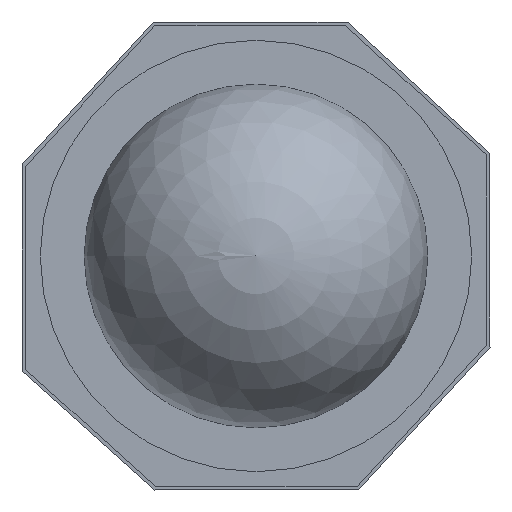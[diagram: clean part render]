
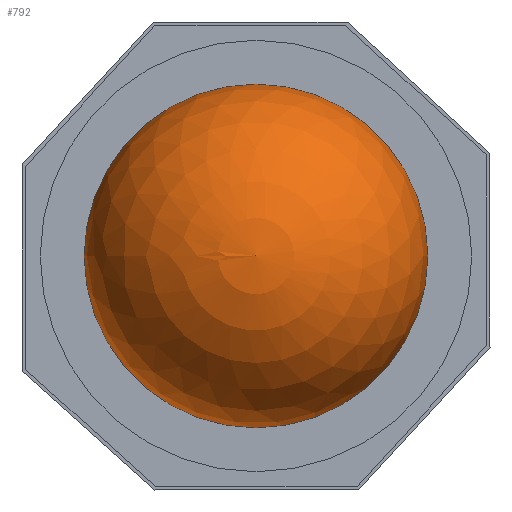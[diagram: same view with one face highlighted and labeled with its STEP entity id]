
A CAD part, left-side view. The second image highlights one B-rep face of the part: STEP entity #792.
In plain terms, the highlighted spherical face has radius 5.969 mm.
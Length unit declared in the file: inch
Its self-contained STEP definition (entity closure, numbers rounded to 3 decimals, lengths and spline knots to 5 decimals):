
#15=SPHERICAL_SURFACE('',#878,0.235);
#103=FACE_OUTER_BOUND('',#157,.T.);
#157=EDGE_LOOP('',(#730,#731,#732,#733,#734));
#342=CIRCLE('',#879,0.235);
#343=CIRCLE('',#880,0.235);
#344=CIRCLE('',#881,0.235);
#345=CIRCLE('',#882,0.235);
#417=VERTEX_POINT('',#1367);
#418=VERTEX_POINT('',#1368);
#419=VERTEX_POINT('',#1370);
#420=VERTEX_POINT('',#1373);
#523=EDGE_CURVE('',#417,#418,#342,.T.);
#524=EDGE_CURVE('',#419,#417,#343,.T.);
#525=EDGE_CURVE('',#418,#419,#344,.T.);
#526=EDGE_CURVE('',#418,#420,#345,.T.);
#730=ORIENTED_EDGE('',*,*,#523,.F.);
#731=ORIENTED_EDGE('',*,*,#524,.F.);
#732=ORIENTED_EDGE('',*,*,#525,.F.);
#733=ORIENTED_EDGE('',*,*,#526,.T.);
#734=ORIENTED_EDGE('',*,*,#526,.F.);
#792=ADVANCED_FACE('',(#103),#15,.T.);
#878=AXIS2_PLACEMENT_3D('',#1366,#1093,#1094);
#879=AXIS2_PLACEMENT_3D('',#1369,#1095,#1096);
#880=AXIS2_PLACEMENT_3D('',#1371,#1097,#1098);
#881=AXIS2_PLACEMENT_3D('',#1372,#1099,#1100);
#882=AXIS2_PLACEMENT_3D('',#1374,#1101,#1102);
#1093=DIRECTION('center_axis',(1.,0.,0.));
#1094=DIRECTION('ref_axis',(0.,-1.,0.));
#1095=DIRECTION('center_axis',(1.,0.,0.));
#1096=DIRECTION('ref_axis',(0.,0.,-1.));
#1097=DIRECTION('center_axis',(1.,0.,0.));
#1098=DIRECTION('ref_axis',(0.,0.,-1.));
#1099=DIRECTION('center_axis',(1.,0.,0.));
#1100=DIRECTION('ref_axis',(0.,0.,-1.));
#1101=DIRECTION('center_axis',(0.,0.,1.));
#1102=DIRECTION('ref_axis',(0.,1.,0.));
#1366=CARTESIAN_POINT('Origin',(-0.235,0.,0.));
#1367=CARTESIAN_POINT('',(-0.235,0.,-0.235));
#1368=CARTESIAN_POINT('',(-0.235,0.235,0.));
#1369=CARTESIAN_POINT('Origin',(-0.235,0.,0.));
#1370=CARTESIAN_POINT('',(-0.235,0.,0.235));
#1371=CARTESIAN_POINT('Origin',(-0.235,0.,0.));
#1372=CARTESIAN_POINT('Origin',(-0.235,0.,0.));
#1373=CARTESIAN_POINT('',(-0.47,0.,0.));
#1374=CARTESIAN_POINT('Origin',(-0.235,0.,0.));
